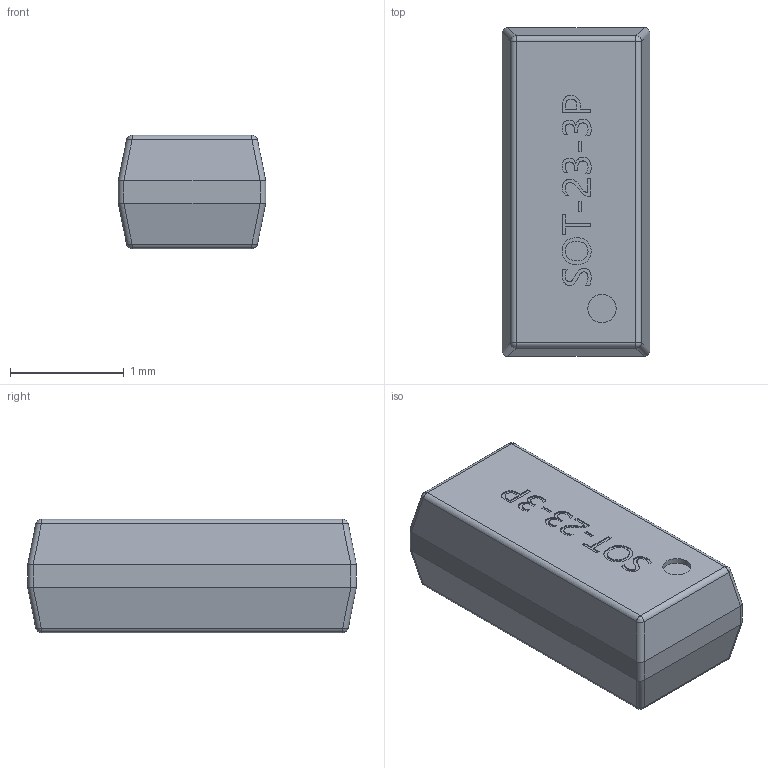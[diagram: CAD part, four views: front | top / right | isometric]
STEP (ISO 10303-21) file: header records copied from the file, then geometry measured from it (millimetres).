
FILE_DESCRIPTION(/* description */ ('STEP AP242 Edition 2','CAx-IF Rec.Pracs.---Representation and Presentation of Product Manufacturing Information (PMI)---4.0---2014-10-13','CAx-IF Rec.Pracs.---3D Tessellated Geometry---0.4---2014-09-14','2;1','CAx-IF Rec.Pracs.---User Defined Attributes---1.5---2016-08-15'),/* implementation_level */ '2;1');
FILE_NAME(/* name */ 'Assembly 1 - SOT-23-3_L2.9-W1.3-P0.95-LS2.4-BR~SOT-23-3P_L2.9-W1.3-H1.0-LS2.4-P0.95~nxQB (12)',/* time_stamp */ '2026-04-02T09:55:23Z',/* author */ (''),/* organization */ (''),/* preprocessor_version */ 'ST-DEVELOPER v20',/* originating_system */ 'ONSHAPE BY PTC INC, 1.212',/* authorisation */ ' ');
FILE_SCHEMA (('AP242_MANAGED_MODEL_BASED_3D_ENGINEERING_MIM_LF { 1 0 10303 442 3 1 4 }'));
Length unit declared in the file: metre
Products named in the file (1): SOT-23-3_L2.9-W1.3-P0.95-LS2.4-BR~SOT-23-3P_L2.9-W1.3-H1.0-LS2.4-P0.9
5~nxQB
Bounding box: 1.3 x 2.89 x 1 mm (x, y, z)
Volume: 3.5 mm3; surface area: 14.3 mm2
Topology: 1 solids, 1 shells, 213 faces, 558 edges, 364 vertices
Faces by surface type: plane 115, bspline 48, cylinder 40, sphere 10
Full cylindrical faces by diameter (mm): 0.249 x1
Entity records: 10751 total; most frequent: CARTESIAN_POINT 4325, ORIENTED_EDGE 1102, DIRECTION 855, EDGE_CURVE 551, VERTEX_POINT 360, LINE 335, VECTOR 335, AXIS2_PLACEMENT_3D 260
